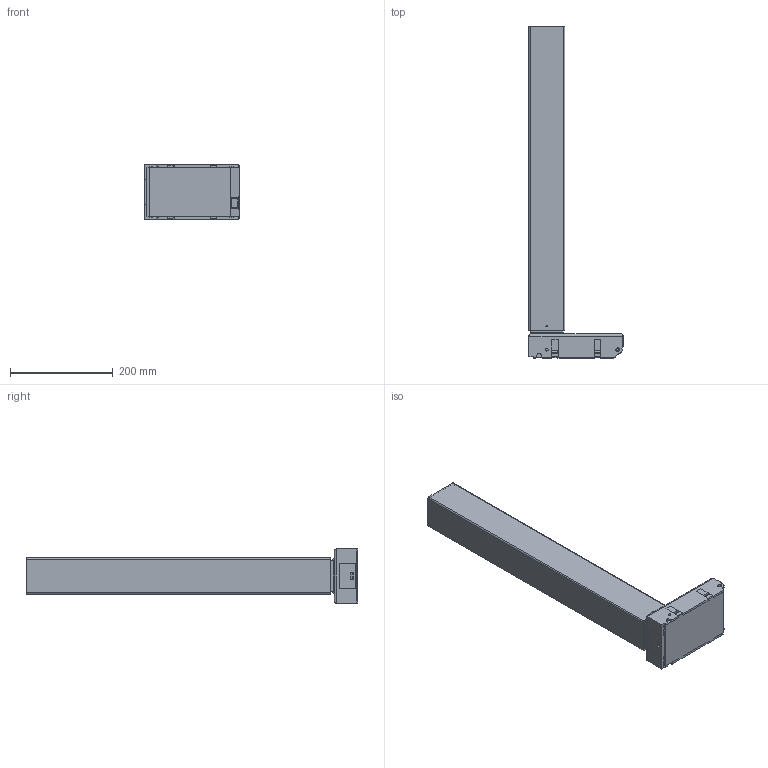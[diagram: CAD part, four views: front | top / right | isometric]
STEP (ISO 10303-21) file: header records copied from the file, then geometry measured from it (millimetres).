
FILE_DESCRIPTION (( 'STEP AP203' ), '1' );
FILE_NAME ('產品三維模型圖-TL13S-B(標凖)-A.STEP', '2018-08-28T10:56:33', ( '' ), ( '' ), 'SwSTEP 2.0', 'SolidWorks 2015', '' );
FILE_SCHEMA (( 'CONFIG_CONTROL_DESIGN' ));
Length unit declared in the file: millimetre
Products named in the file (1): 產品三維模型圖-TL13S-B(標凖)-A
Bounding box: 183 x 645 x 107 mm (x, y, z)
Volume: 3672207.2 mm3; surface area: 308167.3 mm2
Topology: 13 solids, 13 shells, 415 faces, 1018 edges, 641 vertices
Faces by surface type: plane 258, cylinder 102, cone 36, bspline 11, torus 6, sphere 2
Entity records: 12677 total; most frequent: CARTESIAN_POINT 2797, ORIENTED_EDGE 2020, DIRECTION 2003, EDGE_CURVE 1010, VECTOR 747, LINE 747, VERTEX_POINT 641, AXIS2_PLACEMENT_3D 628
